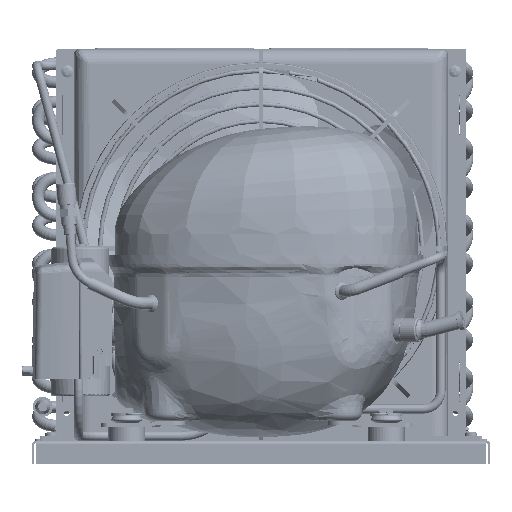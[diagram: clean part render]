
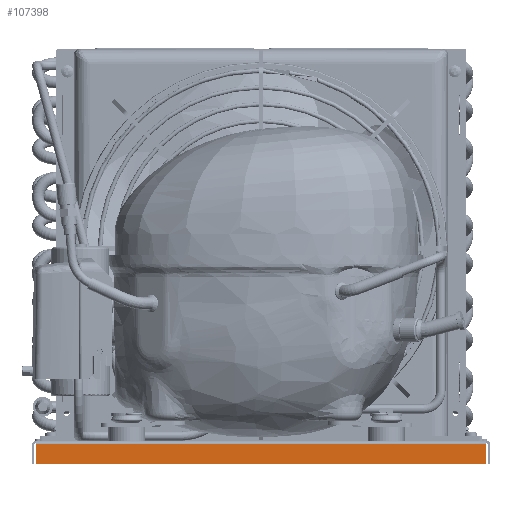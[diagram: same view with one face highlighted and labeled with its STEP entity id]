
A CAD part, front view. The second image highlights one B-rep face of the part: STEP entity #107398.
In plain terms, the highlighted planar face has unit normal (0, -1, 0).
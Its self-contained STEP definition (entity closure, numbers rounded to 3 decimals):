
#12784=ORIENTED_EDGE('',*,*,#45513,.F.);
#12785=ORIENTED_EDGE('',*,*,#45502,.F.);
#12786=ORIENTED_EDGE('',*,*,#45511,.T.);
#12787=ORIENTED_EDGE('',*,*,#45507,.T.);
#45502=EDGE_CURVE('',#61861,#61862,#72807,.T.);
#45507=EDGE_CURVE('',#61865,#61864,#72809,.T.);
#45511=EDGE_CURVE('',#61861,#61865,#72813,.T.);
#45513=EDGE_CURVE('',#61862,#61864,#72815,.T.);
#61861=VERTEX_POINT('',#171571);
#61862=VERTEX_POINT('',#171573);
#61864=VERTEX_POINT('',#171580);
#61865=VERTEX_POINT('',#171582);
#72807=LINE('',#171572,#79586);
#72809=LINE('',#171581,#79588);
#72813=LINE('',#171588,#79592);
#72815=LINE('',#171593,#79594);
#79586=VECTOR('',#146847,1000.);
#79588=VECTOR('',#146857,1000.);
#79592=VECTOR('',#146863,1000.);
#79594=VECTOR('',#146871,1000.);
#86337=EDGE_LOOP('',(#12784,#12785,#12786,#12787));
#94855=FACE_BOUND('',#86337,.T.);
#103324=PLANE('',#137768);
#107398=ADVANCED_FACE('',(#94855),#103324,.F.);
#137768=AXIS2_PLACEMENT_3D('',#171592,#146869,#146870);
#146847=DIRECTION('',(0.,0.,1.));
#146857=DIRECTION('',(0.,0.,1.));
#146863=DIRECTION('',(1.,0.,0.));
#146869=DIRECTION('',(0.,1.,0.));
#146870=DIRECTION('',(0.,0.,1.));
#146871=DIRECTION('',(1.,0.,0.));
#171571=CARTESIAN_POINT('',(-147.7,-190.,-7.5));
#171572=CARTESIAN_POINT('',(-147.7,-190.,7.5));
#171573=CARTESIAN_POINT('',(-147.7,-190.,5.2));
#171580=CARTESIAN_POINT('',(147.7,-190.,5.2));
#171581=CARTESIAN_POINT('',(147.7,-190.,7.5));
#171582=CARTESIAN_POINT('',(147.7,-190.,-7.5));
#171588=CARTESIAN_POINT('',(-150.,-190.,-7.5));
#171592=CARTESIAN_POINT('',(-150.,-190.,7.5));
#171593=CARTESIAN_POINT('',(-150.,-190.,5.2));
